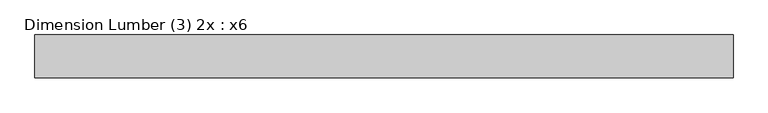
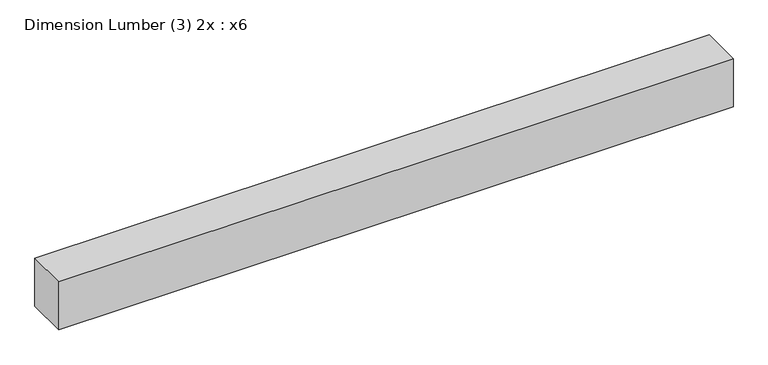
"""IFC4 building model written with IfcOpenShell, lengths in millimetres: beam geometry, Dimension Lumber (3) 2x : x6."""

from ifc_helpers import new_model, si_unit, frame, origin, place, context, project, spatial, polyline, outline, extrude, source, transform, mapped, element, save


def dimension_lumber_3_2x_x6_8adfc0e5(model_context):
    return source(origin(), model_context, "Body", "SweptSolid", [
        extrude(outline(polyline([(930.275, -57.15), (-930.275, -57.15), (-930.275, 57.15), (930.275, 57.15), (930.275, -57.15)])), frame((0.0, 0.0, -69.85), z_axis=(0.0, 0.0, 1.0), x_axis=(1.0, 0.0, 0.0)), (0.0, 0.0, 1.0), 139.7),
    ])


if __name__ == "__main__":
    model = new_model("IFC4")
    model_context = context("Model", 3, world=origin())
    ifc_project = project(units=[si_unit("LENGTHUNIT", "METRE", prefix="MILLI")], contexts=[model_context])
    site = spatial("IfcSite", under=ifc_project)
    building = spatial("IfcBuilding", under=site)
    placement = place(None, origin())
    dimension_lumber_3_2x_x6_shape = dimension_lumber_3_2x_x6_8adfc0e5(model_context)
    element("IfcBeam", 1, ObjectType="Dimension Lumber (3) 2x : x6", at=placement, inside=building, context=model_context, shape_type="MappedRepresentation", body=[
        mapped(dimension_lumber_3_2x_x6_shape, transform((0.0, 0.0, 0.0), x_axis=(1.0, 0.0, 0.0), y_axis=(0.0, 1.0, 0.0), z_axis=(0.0, 0.0, 1.0))),
    ])
    save(model, "model.ifc")
